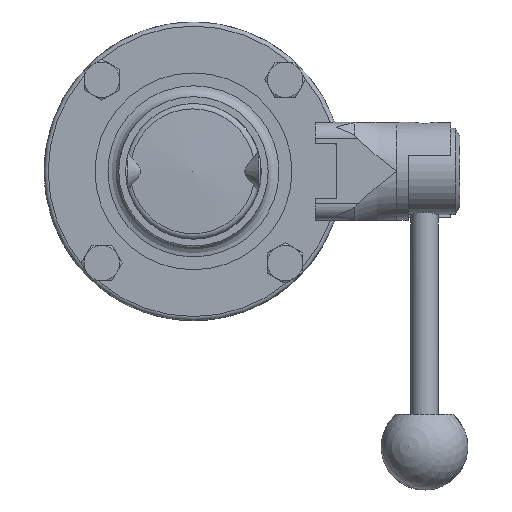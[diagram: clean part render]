
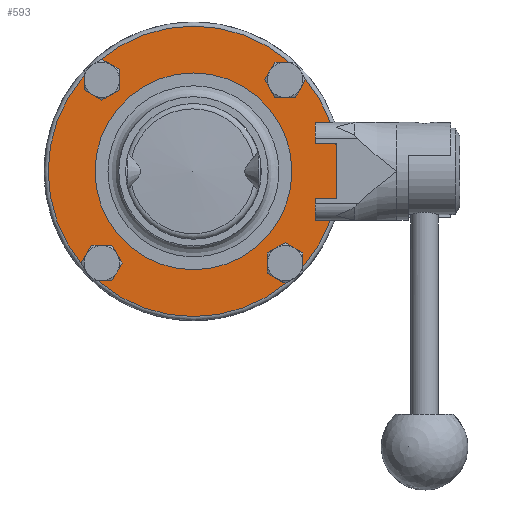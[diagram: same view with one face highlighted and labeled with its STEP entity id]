
A CAD part, front view. The second image highlights one B-rep face of the part: STEP entity #593.
In plain terms, the highlighted planar face has unit normal (0, -1, 0).
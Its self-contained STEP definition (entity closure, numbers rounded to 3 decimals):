
#336=CARTESIAN_POINT('',(-33.764,29.,29.514));
#337=VERTEX_POINT('',#336);
#338=CARTESIAN_POINT('',(-33.764,29.,33.764));
#339=DIRECTION('',(0.0,1.0,0.0));
#340=DIRECTION('',(0.0,0.0,1.0));
#341=AXIS2_PLACEMENT_3D('',#338,#339,#340);
#342=CIRCLE('',#341,4.25);
#343=EDGE_CURVE('',#337,#337,#342,.T.);
#356=CARTESIAN_POINT('',(29.514,29.,33.764));
#357=VERTEX_POINT('',#356);
#358=CARTESIAN_POINT('',(33.764,29.,33.764));
#359=DIRECTION('',(0.0,1.0,0.0));
#360=DIRECTION('',(1.0,0.0,0.0));
#361=AXIS2_PLACEMENT_3D('',#358,#359,#360);
#362=CIRCLE('',#361,4.25);
#363=EDGE_CURVE('',#357,#357,#362,.T.);
#376=CARTESIAN_POINT('',(33.764,29.,-29.514));
#377=VERTEX_POINT('',#376);
#378=CARTESIAN_POINT('',(33.764,29.,-33.764));
#379=DIRECTION('',(0.0,1.0,0.0));
#380=DIRECTION('',(0.0,0.0,-1.0));
#381=AXIS2_PLACEMENT_3D('',#378,#379,#380);
#382=CIRCLE('',#381,4.25);
#383=EDGE_CURVE('',#377,#377,#382,.T.);
#396=CARTESIAN_POINT('',(-29.514,29.,-33.764));
#397=VERTEX_POINT('',#396);
#398=CARTESIAN_POINT('',(-33.764,29.,-33.764));
#399=DIRECTION('',(0.0,1.0,0.0));
#400=DIRECTION('',(-1.0,0.0,0.0));
#401=AXIS2_PLACEMENT_3D('',#398,#399,#400);
#402=CIRCLE('',#401,4.25);
#403=EDGE_CURVE('',#397,#397,#402,.T.);
#550=CARTESIAN_POINT('',(53.5,29.,0.));
#551=VERTEX_POINT('',#550);
#552=CARTESIAN_POINT('',(0.0,29.,0.0));
#553=DIRECTION('',(0.0,1.0,0.0));
#554=DIRECTION('',(-1.0,0.0,0.0));
#555=AXIS2_PLACEMENT_3D('',#552,#553,#554);
#556=CIRCLE('',#555,53.5);
#557=EDGE_CURVE('',#551,#551,#556,.T.);
#562=CARTESIAN_POINT('',(45.625,29.,0.0));
#563=DIRECTION('',(0.0,-1.0,0.0));
#564=DIRECTION('',(0.0,0.0,-1.0));
#565=AXIS2_PLACEMENT_3D('',#562,#563,#564);
#566=PLANE('',#565);
#567=ORIENTED_EDGE('',*,*,#557,.F.);
#568=EDGE_LOOP('',(#567));
#569=FACE_OUTER_BOUND('',#568,.T.);
#570=ORIENTED_EDGE('',*,*,#343,.T.);
#571=EDGE_LOOP('',(#570));
#572=FACE_BOUND('',#571,.T.);
#573=ORIENTED_EDGE('',*,*,#363,.T.);
#574=EDGE_LOOP('',(#573));
#575=FACE_BOUND('',#574,.T.);
#576=ORIENTED_EDGE('',*,*,#383,.T.);
#577=EDGE_LOOP('',(#576));
#578=FACE_BOUND('',#577,.T.);
#579=ORIENTED_EDGE('',*,*,#403,.T.);
#580=EDGE_LOOP('',(#579));
#581=FACE_BOUND('',#580,.T.);
#582=CARTESIAN_POINT('',(36.25,29.,0.0));
#583=VERTEX_POINT('',#582);
#584=CARTESIAN_POINT('',(0.0,29.,0.0));
#585=DIRECTION('',(0.0,-1.0,0.0));
#586=DIRECTION('',(1.0,0.0,0.0));
#587=AXIS2_PLACEMENT_3D('',#584,#585,#586);
#588=CIRCLE('',#587,36.25);
#589=EDGE_CURVE('',#583,#583,#588,.T.);
#590=ORIENTED_EDGE('',*,*,#589,.F.);
#591=EDGE_LOOP('',(#590));
#592=FACE_BOUND('',#591,.T.);
#593=ADVANCED_FACE('',(#569,#572,#575,#578,#581,#592),#566,.T.);
